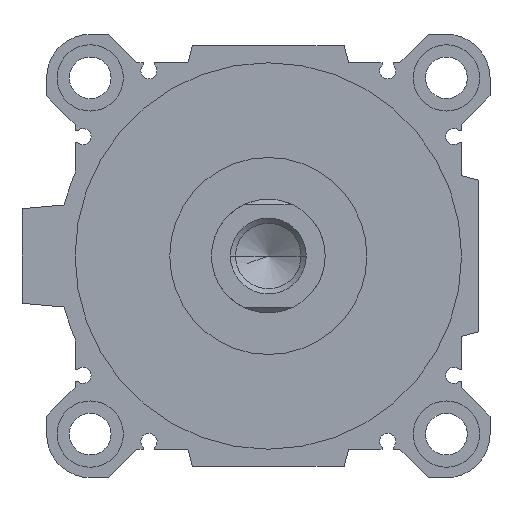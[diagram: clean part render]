
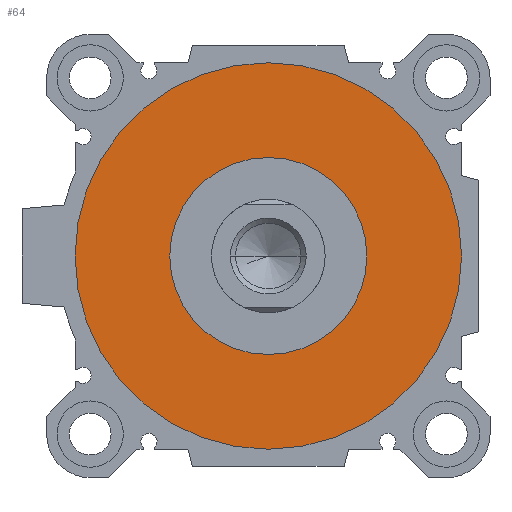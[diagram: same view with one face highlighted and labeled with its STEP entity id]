
A CAD part, left-side view. The second image highlights one B-rep face of the part: STEP entity #64.
In plain terms, the highlighted planar face has unit normal (-1, 0, 0).
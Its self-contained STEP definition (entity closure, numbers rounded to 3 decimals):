
#64 = ADVANCED_FACE ( 'NONE', ( #939, #4725 ), #3495, .F. ) ;
#168 = EDGE_CURVE ( 'NONE', #1896, #1234, #3346, .T. ) ;
#194 = DIRECTION ( 'NONE',  ( 0., 0., -1. ) ) ;
#219 = CARTESIAN_POINT ( 'NONE',  ( 6.5, 0., 0. ) ) ;
#243 = DIRECTION ( 'NONE',  ( 1., 0., 0. ) ) ;
#304 = CARTESIAN_POINT ( 'NONE',  ( 6.5, 0., -51. ) ) ;
#435 = AXIS2_PLACEMENT_3D ( 'NONE', #3132, #3468, #4411 ) ;
#508 = DIRECTION ( 'NONE',  ( 0., 0., -1. ) ) ;
#664 = ORIENTED_EDGE ( 'NONE', *, *, #4547, .F. ) ;
#939 = FACE_OUTER_BOUND ( 'NONE', #2726, .T. ) ;
#987 = EDGE_LOOP ( 'NONE', ( #1841, #3317 ) ) ;
#1013 = DIRECTION ( 'NONE',  ( 0., 0., -1. ) ) ;
#1234 = VERTEX_POINT ( 'NONE', #5111 ) ;
#1515 = CIRCLE ( 'NONE', #5159, 51. ) ;
#1806 = DIRECTION ( 'NONE',  ( 1., 0., 0. ) ) ;
#1841 = ORIENTED_EDGE ( 'NONE', *, *, #168, .T. ) ;
#1896 = VERTEX_POINT ( 'NONE', #3443 ) ;
#2222 = CIRCLE ( 'NONE', #3018, 51. ) ;
#2405 = EDGE_CURVE ( 'NONE', #1234, #1896, #4790, .T. ) ;
#2710 = DIRECTION ( 'NONE',  ( 1., 0., 0. ) ) ;
#2726 = EDGE_LOOP ( 'NONE', ( #664, #3926 ) ) ;
#2992 = VERTEX_POINT ( 'NONE', #304 ) ;
#3018 = AXIS2_PLACEMENT_3D ( 'NONE', #219, #243, #3125 ) ;
#3056 = VERTEX_POINT ( 'NONE', #4545 ) ;
#3125 = DIRECTION ( 'NONE',  ( 0., 0., -1. ) ) ;
#3132 = CARTESIAN_POINT ( 'NONE',  ( 6.5, 0., 0. ) ) ;
#3172 = CARTESIAN_POINT ( 'NONE',  ( 6.5, 0., 0. ) ) ;
#3317 = ORIENTED_EDGE ( 'NONE', *, *, #2405, .T. ) ;
#3346 = CIRCLE ( 'NONE', #3434, 26. ) ;
#3347 = EDGE_CURVE ( 'NONE', #2992, #3056, #1515, .T. ) ;
#3434 = AXIS2_PLACEMENT_3D ( 'NONE', #4304, #1806, #508 ) ;
#3443 = CARTESIAN_POINT ( 'NONE',  ( 6.5, 0., 26. ) ) ;
#3468 = DIRECTION ( 'NONE',  ( 1., 0., 0. ) ) ;
#3495 = PLANE ( 'NONE',  #435 ) ;
#3926 = ORIENTED_EDGE ( 'NONE', *, *, #3347, .F. ) ;
#4038 = DIRECTION ( 'NONE',  ( 1., 0., 0. ) ) ;
#4304 = CARTESIAN_POINT ( 'NONE',  ( 6.5, 0., 0. ) ) ;
#4348 = AXIS2_PLACEMENT_3D ( 'NONE', #4845, #2710, #194 ) ;
#4411 = DIRECTION ( 'NONE',  ( 0., 1., 0. ) ) ;
#4545 = CARTESIAN_POINT ( 'NONE',  ( 6.5, 0., 51. ) ) ;
#4547 = EDGE_CURVE ( 'NONE', #3056, #2992, #2222, .T. ) ;
#4725 = FACE_BOUND ( 'NONE', #987, .T. ) ;
#4790 = CIRCLE ( 'NONE', #4348, 26. ) ;
#4845 = CARTESIAN_POINT ( 'NONE',  ( 6.5, 0., 0. ) ) ;
#5111 = CARTESIAN_POINT ( 'NONE',  ( 6.5, 0., -26. ) ) ;
#5159 = AXIS2_PLACEMENT_3D ( 'NONE', #3172, #4038, #1013 ) ;
